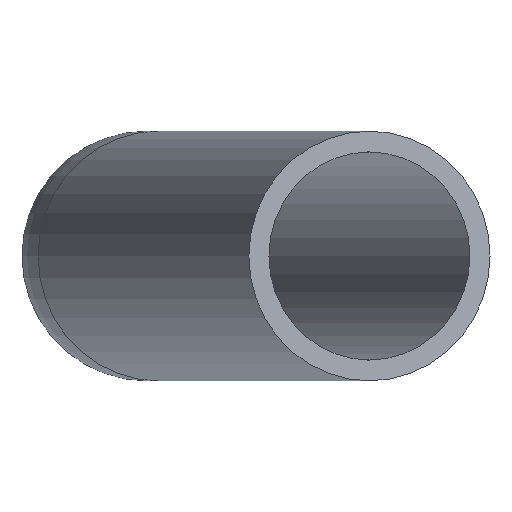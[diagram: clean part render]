
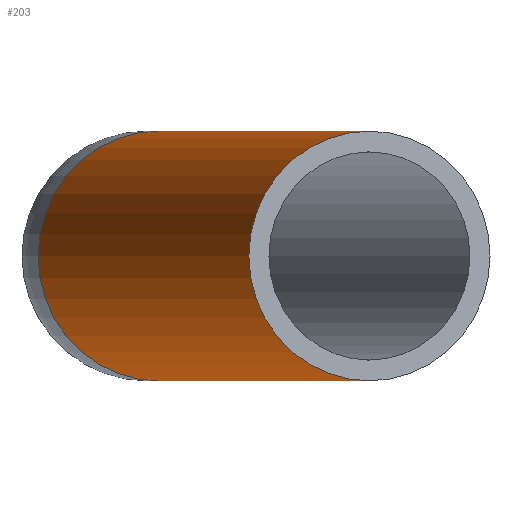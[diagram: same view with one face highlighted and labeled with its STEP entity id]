
A CAD part, left-side view. The second image highlights one B-rep face of the part: STEP entity #203.
In plain terms, the highlighted cylindrical face has radius 9 mm (diameter 18 mm), a full revolution.
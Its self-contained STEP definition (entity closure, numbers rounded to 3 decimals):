
#172=CARTESIAN_POINT('',(-8.8,32.841,0.));
#173=VERTEX_POINT('',#172);
#174=CARTESIAN_POINT('',(-6.47,24.148,0.0));
#175=DIRECTION('',(-0.966,-0.259,0.0));
#176=DIRECTION('',(0.259,-0.966,0.0));
#177=AXIS2_PLACEMENT_3D('',#174,#175,#176);
#178=CIRCLE('',#177,9.);
#179=EDGE_CURVE('',#173,#173,#178,.T.);
#184=CARTESIAN_POINT('',(-63.179,8.953,0.0));
#185=DIRECTION('',(0.966,0.259,0.0));
#186=DIRECTION('',(0.259,-0.966,0.0));
#187=AXIS2_PLACEMENT_3D('',#184,#185,#186);
#188=CYLINDRICAL_SURFACE('',#187,9.0);
#189=ORIENTED_EDGE('',*,*,#179,.T.);
#190=EDGE_LOOP('',(#189));
#191=FACE_OUTER_BOUND('',#190,.T.);
#192=CARTESIAN_POINT('',(-65.508,17.647,0.));
#193=VERTEX_POINT('',#192);
#194=CARTESIAN_POINT('',(-63.179,8.953,0.0));
#195=DIRECTION('',(-0.966,-0.259,0.0));
#196=DIRECTION('',(0.259,-0.966,0.0));
#197=AXIS2_PLACEMENT_3D('',#194,#195,#196);
#198=CIRCLE('',#197,9.);
#199=EDGE_CURVE('',#193,#193,#198,.T.);
#200=ORIENTED_EDGE('',*,*,#199,.F.);
#201=EDGE_LOOP('',(#200));
#202=FACE_BOUND('',#201,.T.);
#203=ADVANCED_FACE('',(#191,#202),#188,.T.);
